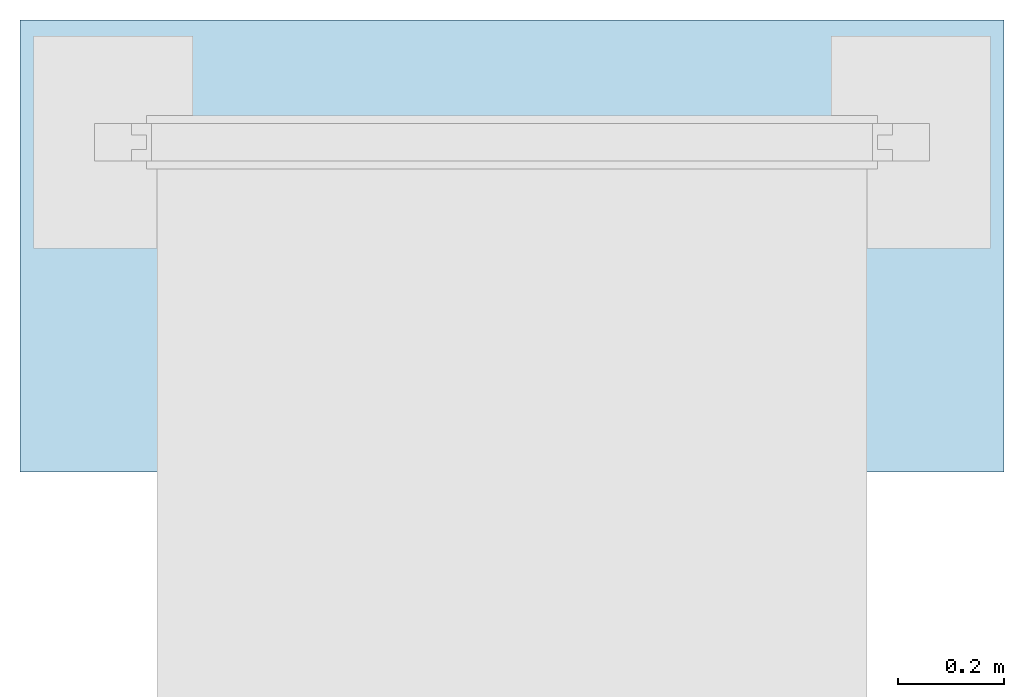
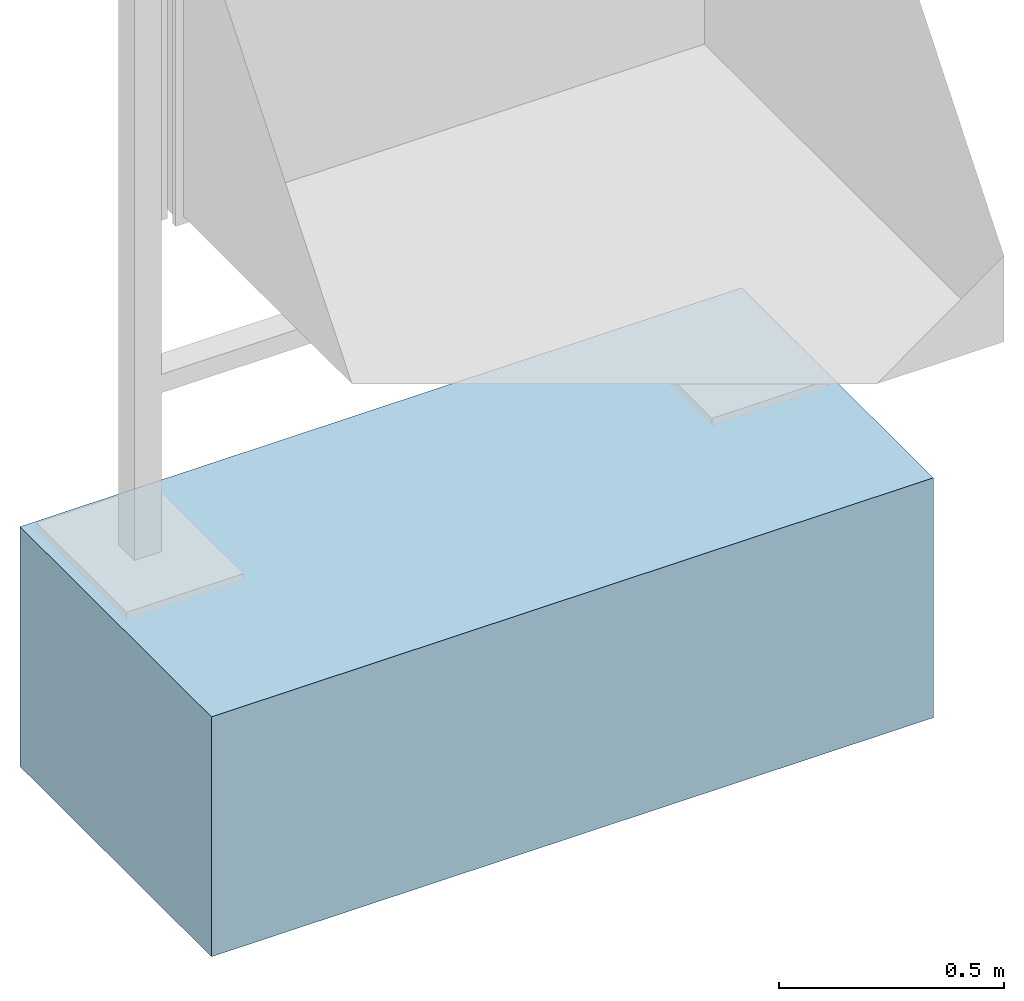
# One storey, incomplete: 1 slab.
"""IFC4 building model written with IfcOpenShell, lengths in metres."""

from ifc_helpers import new_model, entity, si_unit, converted_unit, direction, frame, frame_2d, origin, place, context, subcontext, project, spatial, rectangle, extrude, material, type_object, element, save


model = new_model("IFC4")

# Units and contexts
model_context = context("Model", 3, precision=1e-05, world=origin(), true_north=direction((6.123031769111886e-17, 1.0)))
body_context = subcontext(model_context, "Body", "Model", "MODEL_VIEW")
ifc_project = project(units=[si_unit("LENGTHUNIT", "METRE"), converted_unit("PLANEANGLEUNIT", "DEGREE", entity("IfcPlaneAngleMeasure", 0.017453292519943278), si_unit("PLANEANGLEUNIT", "RADIAN"), dimensions=[0, 0, 0, 0, 0, 0, 0]), si_unit("AREAUNIT", "SQUARE_METRE")], contexts=[model_context])

# Site, building, storey
site_placement = place(None, origin())
site = spatial("IfcSite", under=ifc_project, at=site_placement, Name="Default", CompositionType="ELEMENT")
building_placement = place(site_placement, origin())
building = spatial("IfcBuilding", under=site, at=building_placement, CompositionType="ELEMENT")
storey_placement = place(building_placement, origin())
storey = spatial("IfcBuildingStorey", under=building, at=storey_placement, Name="Ebene 0", CompositionType="ELEMENT", Elevation=0.0)

# Slab
ifc_material = material(Name="DB_Magerbeton", Category="DB_Beton")
slab_type = type_object("IfcSlabType", Name="DB_Vitrine_Fundament_einfeldrig_Windlastzone_1_2:DB_Vitrine_Fundament_einfeldrig_Windlastzone_1_2", PredefinedType="BASESLAB", material=ifc_material)
slab_placement = place(storey_placement, origin())
element("IfcSlab", 1, at=slab_placement, inside=storey, type_object=slab_type, Name="DB_Vitrine_Fundament_einfeldrig_Windlastzone_1_2:DB_Vitrine_Fundament_einfeldrig_Windlastzone_1_2", ObjectType="DB_Vitrine_Fundament_einfeldrig_Windlastzone_1_2:DB_Vitrine_Fundament_einfeldrig_Windlastzone_1_2", PredefinedType="BASESLAB", context=body_context, shape_type="SweptSolid", body=[
    extrude(rectangle(XDim=0.8500000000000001, YDim=1.85, at=frame_2d((5.551115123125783e-17, -5.551115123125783e-17), x_axis=(1.0, 0.0))), frame((0.7500000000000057, -0.19499999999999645, 0.0), z_axis=(0.0, 0.0, 1.0), x_axis=(0.0, -1.0, 0.0)), (0.0, 0.0, 1.0), 0.04999999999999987),
    extrude(rectangle(XDim=1.85, YDim=0.8500000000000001, at=frame_2d((0.0, -2.7755575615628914e-17), x_axis=(1.0, 0.0))), frame((0.7500000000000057, -0.19499999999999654, 0.04999999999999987), z_axis=(0.0, 0.0, 1.0), x_axis=(-1.0, 0.0, 0.0)), (0.0, 0.0, 1.0), 0.5999999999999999),
])

save(model, "model.ifc")
